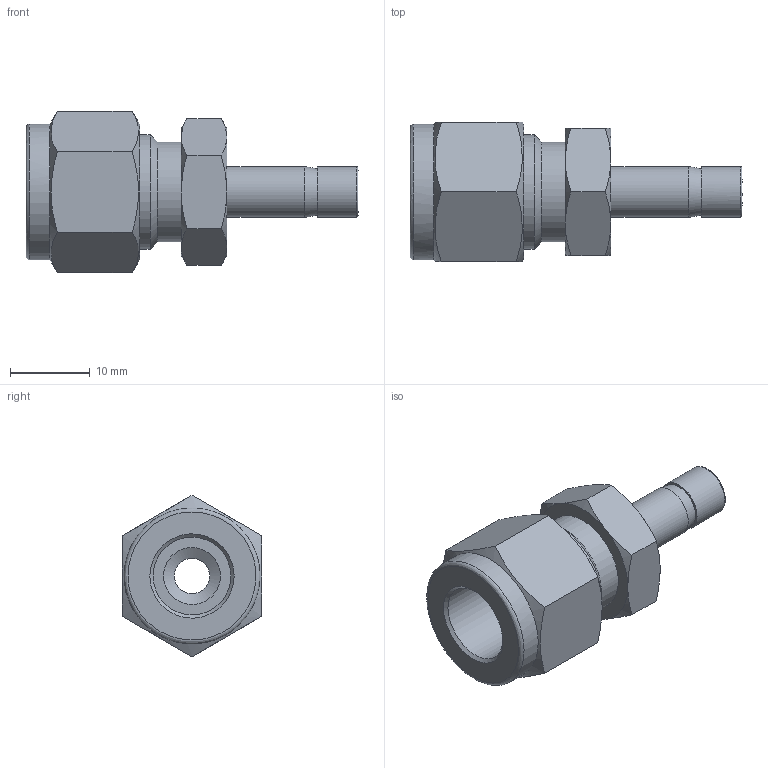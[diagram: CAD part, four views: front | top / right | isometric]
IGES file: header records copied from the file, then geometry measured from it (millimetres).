
Global section: file name: SR-6-4; native system: Autodesk Inventor 2016; preprocessor: unknown; author: DESIGNPC2; date: 20151111.194924; units: millimetre
Bounding box: 41.51 x 17.46 x 20.16 mm (x, y, z)
Volume: 4350.8 mm3; surface area: 3165.4 mm2
Topology: 1 solids, 1 shells, 47 faces, 134 edges, 94 vertices
Faces by surface type: bspline 47
